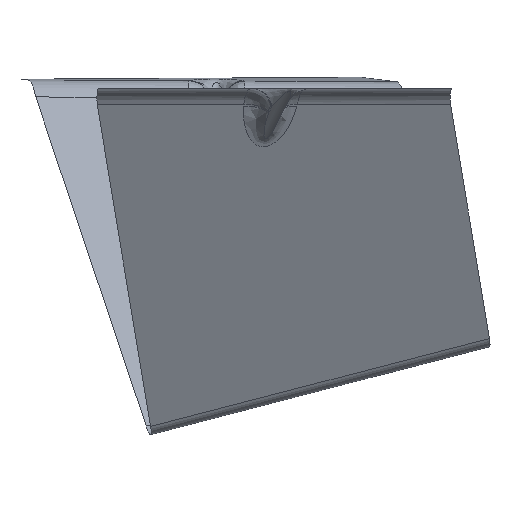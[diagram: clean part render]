
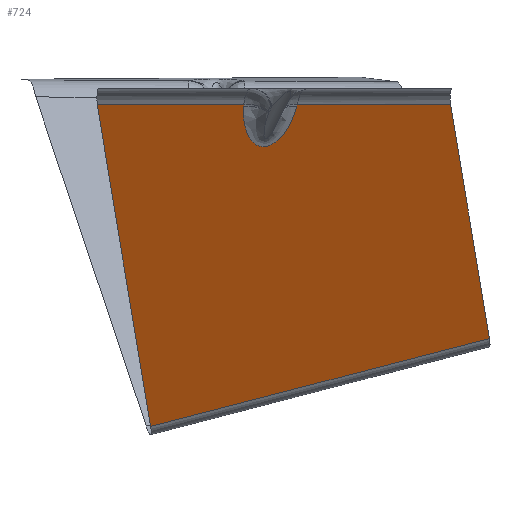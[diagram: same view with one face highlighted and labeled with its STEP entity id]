
A CAD part, left-side view. The second image highlights one B-rep face of the part: STEP entity #724.
In plain terms, the highlighted planar face has unit normal (-0.83, -0.249, -0.5).
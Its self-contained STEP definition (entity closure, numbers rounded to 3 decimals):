
#248=CARTESIAN_POINT('Vertex',(-103.02,8.866,-0.5)) ;
#271=CARTESIAN_POINT('Line Origine',(-81.239,11.425,-37.907)) ;
#275=CARTESIAN_POINT('Vertex',(-102.763,8.897,-0.942)) ;
#612=CARTESIAN_POINT('Control Point',(-98.235,-6.196,-0.942)) ;
#613=CARTESIAN_POINT('Control Point',(-97.776,-5.965,-1.818)) ;
#614=CARTESIAN_POINT('Control Point',(-97.33,-5.695,-2.692)) ;
#615=CARTESIAN_POINT('Control Point',(-96.899,-5.384,-3.562)) ;
#616=CARTESIAN_POINT('Control Point',(-96.124,-4.719,-5.179)) ;
#617=CARTESIAN_POINT('Control Point',(-95.419,-3.876,-6.768)) ;
#618=CARTESIAN_POINT('Control Point',(-95.111,-3.443,-7.494)) ;
#619=CARTESIAN_POINT('Control Point',(-94.708,-2.764,-8.501)) ;
#620=CARTESIAN_POINT('Control Point',(-94.369,-1.955,-9.466)) ;
#621=CARTESIAN_POINT('Control Point',(-94.278,-1.711,-9.738)) ;
#622=CARTESIAN_POINT('Control Point',(-94.071,-1.077,-10.398)) ;
#623=CARTESIAN_POINT('Control Point',(-93.917,-0.35,-11.015)) ;
#624=CARTESIAN_POINT('Control Point',(-93.849,0.123,-11.363)) ;
#625=CARTESIAN_POINT('Control Point',(-93.797,0.925,-11.849)) ;
#626=CARTESIAN_POINT('Control Point',(-93.869,1.846,-12.187)) ;
#627=CARTESIAN_POINT('Control Point',(-93.913,2.184,-12.282)) ;
#628=CARTESIAN_POINT('Control Point',(-94.025,2.778,-12.392)) ;
#629=CARTESIAN_POINT('Control Point',(-94.198,3.374,-12.401)) ;
#630=CARTESIAN_POINT('Control Point',(-94.28,3.617,-12.387)) ;
#631=CARTESIAN_POINT('Control Point',(-94.527,4.265,-12.3)) ;
#632=CARTESIAN_POINT('Control Point',(-94.823,4.845,-12.097)) ;
#633=CARTESIAN_POINT('Control Point',(-95.024,5.18,-11.932)) ;
#634=CARTESIAN_POINT('Control Point',(-95.376,5.702,-11.607)) ;
#635=CARTESIAN_POINT('Control Point',(-95.736,6.143,-11.229)) ;
#636=CARTESIAN_POINT('Control Point',(-95.889,6.316,-11.062)) ;
#637=CARTESIAN_POINT('Control Point',(-96.232,6.68,-10.673)) ;
#638=CARTESIAN_POINT('Control Point',(-96.575,6.992,-10.259)) ;
#639=CARTESIAN_POINT('Control Point',(-96.764,7.15,-10.024)) ;
#640=CARTESIAN_POINT('Control Point',(-97.189,7.481,-9.484)) ;
#641=CARTESIAN_POINT('Control Point',(-97.608,7.755,-8.926)) ;
#642=CARTESIAN_POINT('Control Point',(-97.839,7.893,-8.61)) ;
#643=CARTESIAN_POINT('Control Point',(-98.352,8.17,-7.897)) ;
#644=CARTESIAN_POINT('Control Point',(-98.856,8.387,-7.17)) ;
#645=CARTESIAN_POINT('Control Point',(-99.132,8.491,-6.763)) ;
#646=CARTESIAN_POINT('Control Point',(-100.059,8.794,-5.376)) ;
#647=CARTESIAN_POINT('Control Point',(-100.955,8.94,-3.963)) ;
#648=CARTESIAN_POINT('Control Point',(-101.571,8.981,-2.961)) ;
#649=CARTESIAN_POINT('Control Point',(-102.174,8.966,-1.953)) ;
#650=CARTESIAN_POINT('Control Point',(-102.763,8.897,-0.942)) ;
#651=CARTESIAN_POINT('Vertex',(-98.235,-6.196,-0.942)) ;
#669=CARTESIAN_POINT('Axis2P3D Location',(-45.513,-13.654,-84.697)) ;
#674=CARTESIAN_POINT('Line Origine',(-98.351,-6.254,-0.721)) ;
#678=CARTESIAN_POINT('Vertex',(-98.466,-6.312,-0.5)) ;
#681=CARTESIAN_POINT('Line Origine',(-109.237,29.59,-0.5)) ;
#685=CARTESIAN_POINT('Vertex',(-115.454,50.314,-0.5)) ;
#688=CARTESIAN_POINT('Line Origine',(-85.737,42.759,-46.041)) ;
#692=CARTESIAN_POINT('Vertex',(-56.02,35.204,-91.581)) ;
#695=CARTESIAN_POINT('Line Origine',(-49.139,-12.732,-79.139)) ;
#699=CARTESIAN_POINT('Vertex',(-42.258,-60.668,-66.696)) ;
#702=CARTESIAN_POINT('Line Origine',(-63.856,-55.177,-33.598)) ;
#706=CARTESIAN_POINT('Vertex',(-85.454,-49.686,-0.5)) ;
#709=CARTESIAN_POINT('Line Origine',(-91.96,-27.999,-0.5)) ;
#272=DIRECTION('Vector Direction',(0.502,0.059,-0.863)) ;
#670=DIRECTION('Axis2P3D Direction',(0.83,0.249,0.5)) ;
#671=DIRECTION('Axis2P3D XDirection',(0.541,-0.138,-0.83)) ;
#675=DIRECTION('Vector Direction',(-0.452,-0.227,0.863)) ;
#682=DIRECTION('Vector Direction',(0.287,-0.958,0.)) ;
#689=DIRECTION('Vector Direction',(0.541,-0.138,-0.83)) ;
#696=DIRECTION('Vector Direction',(0.138,-0.959,0.249)) ;
#703=DIRECTION('Vector Direction',(-0.541,0.138,0.83)) ;
#710=DIRECTION('Vector Direction',(0.287,-0.958,0.)) ;
#672=AXIS2_PLACEMENT_3D('Plane Axis2P3D',#669,#670,#671) ;
#715=ORIENTED_EDGE('',*,*,#680,.T.) ;
#716=ORIENTED_EDGE('',*,*,#653,.T.) ;
#717=ORIENTED_EDGE('',*,*,#277,.T.) ;
#718=ORIENTED_EDGE('',*,*,#687,.F.) ;
#719=ORIENTED_EDGE('',*,*,#694,.T.) ;
#720=ORIENTED_EDGE('',*,*,#701,.T.) ;
#721=ORIENTED_EDGE('',*,*,#708,.T.) ;
#722=ORIENTED_EDGE('',*,*,#713,.F.) ;
#273=VECTOR('Line Direction',#272,1.) ;
#676=VECTOR('Line Direction',#675,1.) ;
#683=VECTOR('Line Direction',#682,1.) ;
#690=VECTOR('Line Direction',#689,1.) ;
#697=VECTOR('Line Direction',#696,1.) ;
#704=VECTOR('Line Direction',#703,1.) ;
#711=VECTOR('Line Direction',#710,1.) ;
#724=ADVANCED_FACE('Extract.1',(#723),#673,.F.) ;
#611=B_SPLINE_CURVE_WITH_KNOTS('',5,(#612,#613,#614,#615,#616,#617,#618,#619,#620,#621,#622,#623,#624,#625,#626,#627,#628,#629,#630,#631,#632,#633,#634,#635,#636,#637,#638,#639,#640,#641,#642,#643,#644,#645,#646,#647,#648,#649,#650),.UNSPECIFIED.,.F.,.U.,(6,3,3,3,3,3,3,3,3,3,3,3,6),(28.017,34.754,40.591,42.936,46.384,48.242,49.564,51.849,53.525,55.618,58.242,61.486,69.261),.UNSPECIFIED.) ;
#277=EDGE_CURVE('',#276,#249,#274,.F.) ;
#653=EDGE_CURVE('',#652,#276,#611,.T.) ;
#680=EDGE_CURVE('',#679,#652,#677,.F.) ;
#687=EDGE_CURVE('',#686,#249,#684,.T.) ;
#694=EDGE_CURVE('',#686,#693,#691,.T.) ;
#701=EDGE_CURVE('',#693,#700,#698,.T.) ;
#708=EDGE_CURVE('',#700,#707,#705,.T.) ;
#713=EDGE_CURVE('',#679,#707,#712,.T.) ;
#714=EDGE_LOOP('',(#715,#716,#717,#718,#719,#720,#721,#722)) ;
#723=FACE_OUTER_BOUND('',#714,.T.) ;
#274=LINE('Line',#271,#273) ;
#677=LINE('Line',#674,#676) ;
#684=LINE('Line',#681,#683) ;
#691=LINE('Line',#688,#690) ;
#698=LINE('Line',#695,#697) ;
#705=LINE('Line',#702,#704) ;
#712=LINE('Line',#709,#711) ;
#673=PLANE('',#672) ;
#249=VERTEX_POINT('',#248) ;
#276=VERTEX_POINT('',#275) ;
#652=VERTEX_POINT('',#651) ;
#679=VERTEX_POINT('',#678) ;
#686=VERTEX_POINT('',#685) ;
#693=VERTEX_POINT('',#692) ;
#700=VERTEX_POINT('',#699) ;
#707=VERTEX_POINT('',#706) ;
